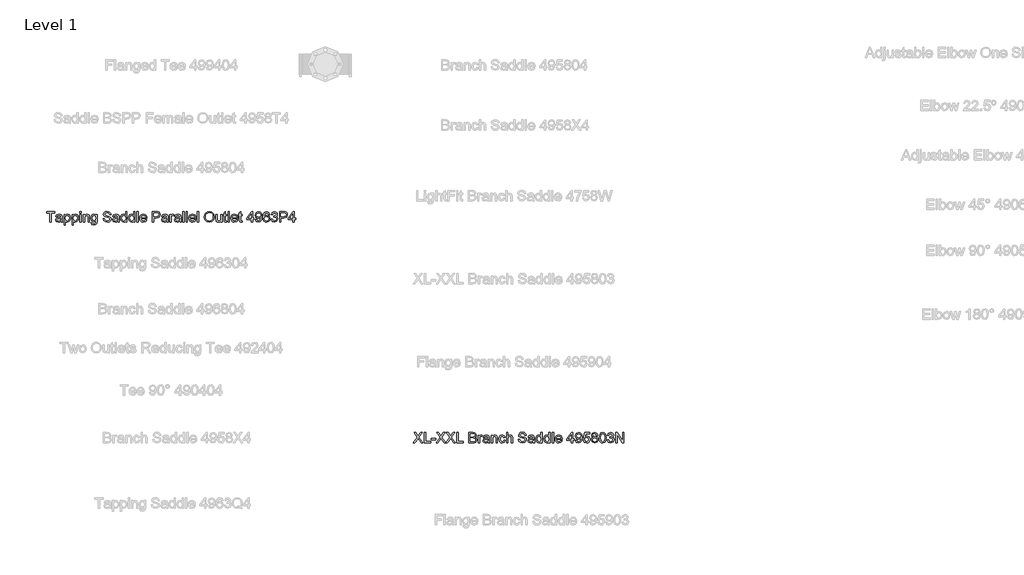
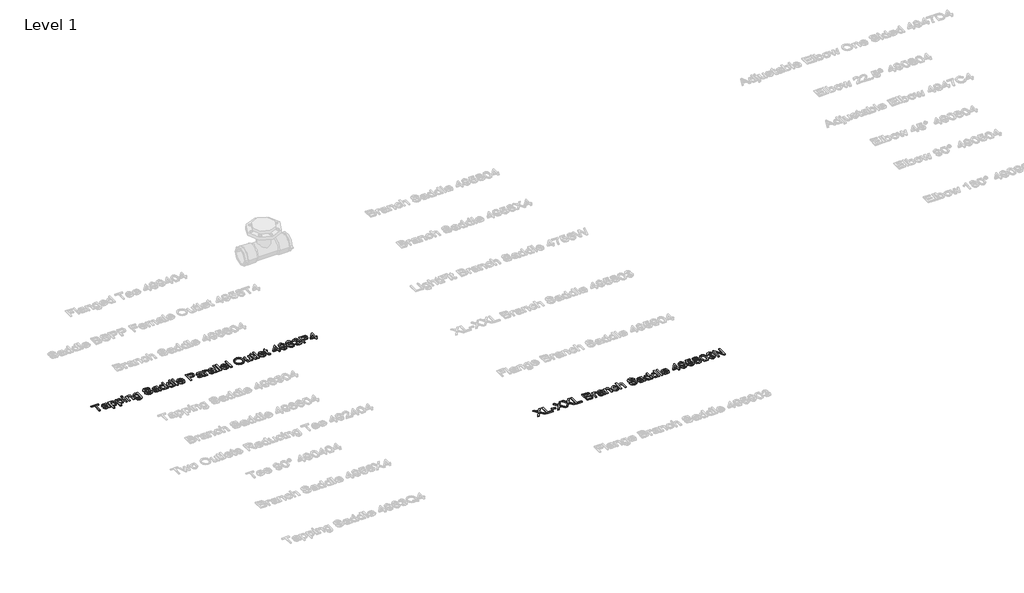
# One storey, part 9 of 38: 2 proxies.
"""IFC4 building model written with IfcOpenShell, lengths in millimetres."""

from ifc_helpers import new_model, si_unit, origin, origin_with_axes, place, context, project, spatial, polyline, outline, extrude, element, save

model = new_model("IFC4")

# Units and contexts
model_context = context("Model", 3, world=origin())
ifc_project = project(units=[si_unit("LENGTHUNIT", "METRE", prefix="MILLI")], contexts=[model_context])

# Site, building, storey
site = spatial("IfcSite", under=ifc_project)
building = spatial("IfcBuilding", under=site)
storey = spatial("IfcBuildingStorey", under=building, Name="Level 1", Elevation=0.0)

# Proxies
placement = place(None, origin())
element("IfcBuildingElementProxy", 1, Name="100 mm Arial", ObjectType="100 mm Arial", at=placement, inside=storey, context=model_context, shape_type="SweptSolid", body=[
    extrude(outline(polyline([(6373.9808456, 4077.5779735), (6373.9808456, 4129.2702812), (6354.5962303, 4129.2702812), (6354.5962303, 4136.6548966), (6400.7500764, 4136.6548966), (6400.7500764, 4129.2702812), (6381.365461, 4129.2702812), (6381.365461, 4077.5779735), (6373.9808456, 4077.5779735)])), origin_with_axes(), (0.0, 0.0, 1.0), 5.0),
    extrude(outline(polyline([(6435.8269995, 4083.1164351), (6428.6659418, 4078.1116274), (6420.7548841, 4076.6548966), (6410.0313264, 4080.1597043), (6406.288538, 4089.1164351), (6407.7019995, 4094.9577812), (6411.4159418, 4099.1981658), (6416.5866149, 4101.6212428), (6422.976038, 4102.7318197), (6435.7837303, 4105.2702812), (6435.8269995, 4106.914512), (6433.7933456, 4112.3664351), (6425.6298841, 4114.5010505), (6418.1587303, 4113.0803774), (6414.5962303, 4108.039512), (6407.2116149, 4108.9625889), (6410.4063264, 4116.1741274), (6416.8390187, 4120.4000889), (6426.5818072, 4121.8856658), (6435.5313264, 4120.5731658), (6440.5866149, 4117.2774928), (6442.851038, 4112.2654735), (6443.2116149, 4105.8039351), (6443.2116149, 4096.6164351), (6443.5866149, 4083.7871082), (6445.0577687, 4077.5779735), (6437.6731533, 4077.5779735), (6435.8269995, 4083.1164351)]), holes=[polyline([(6435.8269995, 4097.8856658), (6423.913538, 4095.6212428), (6417.5601726, 4094.4241274), (6414.6827687, 4092.477012), (6413.6731533, 4089.6356658), (6415.8726726, 4085.6404735), (6422.3269995, 4084.039512), (6429.7981533, 4085.8063389), (6434.615461, 4090.0827812), (6435.7837303, 4095.7943197), (6435.8269995, 4097.8856658)])]), origin_with_axes(), (0.0, 0.0, 1.0), 5.0),
    extrude(outline(polyline([(6453.365461, 4060.9625889), (6453.365461, 4120.9625889), (6460.7500764, 4120.9625889), (6460.7500764, 4113.7222043), (6465.8558456, 4119.8448005), (6472.7500764, 4121.8856658), (6482.1106533, 4119.0298966), (6488.226038, 4110.9818197), (6490.288538, 4099.602012), (6487.959211, 4087.6380697), (6481.194788, 4079.4890312), (6471.8558456, 4076.6548966), (6465.4303649, 4078.5515312), (6460.7500764, 4083.3472043), (6460.7500764, 4060.9625889), (6453.365461, 4060.9625889)]), holes=[polyline([(6460.7500764, 4098.9241274), (6463.944788, 4087.6741274), (6471.6971918, 4084.039512), (6479.6082495, 4087.8039351), (6482.9039226, 4099.4722043), (6479.6875764, 4110.7510505), (6472.0000764, 4114.5010505), (6464.1611341, 4110.5130697), (6460.7500764, 4098.9241274)])]), origin_with_axes(), (0.0, 0.0, 1.0), 5.0),
    extrude(outline(polyline([(6498.5962303, 4060.9625889), (6498.5962303, 4120.9625889), (6505.9808456, 4120.9625889), (6505.9808456, 4113.7222043), (6511.0866149, 4119.8448005), (6517.9808456, 4121.8856658), (6527.3414226, 4119.0298966), (6533.4568072, 4110.9818197), (6535.5193072, 4099.602012), (6533.1899803, 4087.6380697), (6526.4255572, 4079.4890312), (6517.0866149, 4076.6548966), (6510.6611341, 4078.5515312), (6505.9808456, 4083.3472043), (6505.9808456, 4060.9625889), (6498.5962303, 4060.9625889)]), holes=[polyline([(6505.9808456, 4098.9241274), (6509.1755572, 4087.6741274), (6516.927961, 4084.039512), (6524.8390187, 4087.8039351), (6528.1346918, 4099.4722043), (6524.9183456, 4110.7510505), (6517.2308456, 4114.5010505), (6509.3919033, 4110.5130697), (6505.9808456, 4098.9241274)])]), origin_with_axes(), (0.0, 0.0, 1.0), 5.0),
    extrude(outline(polyline([(6543.8269995, 4129.2702812), (6543.8269995, 4136.6548966), (6551.2116149, 4136.6548966), (6551.2116149, 4129.2702812), (6543.8269995, 4129.2702812)])), origin_with_axes(), (0.0, 0.0, 1.0), 5.0),
    extrude(outline(polyline([(6543.8269995, 4077.5779735), (6543.8269995, 4120.9625889), (6551.2116149, 4120.9625889), (6551.2116149, 4077.5779735), (6543.8269995, 4077.5779735)])), origin_with_axes(), (0.0, 0.0, 1.0), 5.0),
    extrude(outline(polyline([(6562.288538, 4077.5779735), (6562.288538, 4120.9625889), (6569.6731533, 4120.9625889), (6569.6731533, 4114.9048966), (6575.319788, 4120.1404735), (6583.0289226, 4121.8856658), (6590.0024803, 4120.4794158), (6594.7620956, 4116.7871082), (6596.976038, 4111.3568197), (6597.365461, 4104.2173966), (6597.365461, 4077.5779735), (6589.9808456, 4077.5779735), (6589.9808456, 4103.2222043), (6589.1298841, 4109.7558582), (6586.1226726, 4113.2101851), (6581.052961, 4114.5010505), (6573.0409418, 4111.602012), (6569.6731533, 4100.5972043), (6569.6731533, 4077.5779735), (6562.288538, 4077.5779735)])), origin_with_axes(), (0.0, 0.0, 1.0), 5.0),
    extrude(outline(polyline([(6605.6731533, 4073.8856658), (6613.0577687, 4072.9625889), (6615.4519995, 4069.0683582), (6622.6202687, 4067.4241274), (6630.177961, 4069.2847043), (6633.7837303, 4074.5058582), (6634.288538, 4083.1164351), (6622.7500764, 4077.5779735), (6615.1364947, 4079.1897524), (6609.459211, 4084.0250889), (6604.7500764, 4099.4866274), (6606.8630572, 4110.9313389), (6612.9784418, 4119.0298966), (6622.3894995, 4121.8856658), (6628.9772399, 4120.2702812), (6634.288538, 4115.4241274), (6634.288538, 4120.9625889), (6641.6731533, 4120.9625889), (6641.6731533, 4083.5058582), (6639.6539226, 4069.1621082), (6633.257288, 4062.4914351), (6622.476038, 4060.039512), (6610.194788, 4063.4938389), (6605.6731533, 4073.8856658)]), holes=[polyline([(6612.1346918, 4099.9914351), (6615.2861341, 4088.5611466), (6623.1971918, 4084.9625889), (6631.0938264, 4088.539512), (6634.288538, 4099.7750889), (6631.0000764, 4110.7871082), (6623.0818072, 4114.5010505), (6615.3294033, 4110.8448005), (6612.1346918, 4099.9914351)])]), origin_with_axes(), (0.0, 0.0, 1.0), 5.0),
    extrude(outline(polyline([(6673.9808456, 4097.8856658), (6681.365461, 4097.8856658), (6683.7452687, 4090.4938389), (6689.5577687, 4085.820762), (6698.413538, 4084.039512), (6706.1298841, 4085.3880697), (6711.1130572, 4089.0948005), (6712.7500764, 4094.0491274), (6711.5241149, 4098.6573005), (6706.5048841, 4102.0106658), (6695.7524803, 4104.8303774), (6684.177961, 4108.4722043), (6677.896711, 4113.9673966), (6675.8269995, 4121.3087428), (6678.3870956, 4129.6669158), (6685.865461, 4135.5659543), (6696.8125764, 4137.5779735), (6708.4952687, 4135.4722043), (6716.2837303, 4129.2847043), (6719.2116149, 4120.039512), (6711.8269995, 4120.039512), (6707.6443072, 4127.6260505), (6697.101038, 4130.1933582), (6686.5289226, 4127.6548966), (6683.2116149, 4121.5250889), (6685.5625764, 4116.4048966), (6697.6202687, 4112.2798966), (6710.6875764, 4108.5731658), (6717.834211, 4102.5875889), (6720.1346918, 4094.2366274), (6717.4880572, 4085.4024928), (6709.8726726, 4078.9553774), (6698.7019995, 4076.6548966), (6685.5120956, 4079.1356658), (6677.1683456, 4086.6068197), (6673.9808456, 4097.8856658)])), origin_with_axes(), (0.0, 0.0, 1.0), 5.0),
    extrude(outline(polyline([(6757.9808456, 4083.1164351), (6750.819788, 4078.1116274), (6742.9087303, 4076.6548966), (6732.1851726, 4080.1597043), (6728.4423841, 4089.1164351), (6729.8558456, 4094.9577812), (6733.569788, 4099.1981658), (6738.740461, 4101.6212428), (6745.1298841, 4102.7318197), (6757.9375764, 4105.2702812), (6757.9808456, 4106.914512), (6755.9471918, 4112.3664351), (6747.7837303, 4114.5010505), (6740.3125764, 4113.0803774), (6736.7500764, 4108.039512), (6729.365461, 4108.9625889), (6732.5601726, 4116.1741274), (6738.9928649, 4120.4000889), (6748.7356533, 4121.8856658), (6757.6851726, 4120.5731658), (6762.740461, 4117.2774928), (6765.0048841, 4112.2654735), (6765.365461, 4105.8039351), (6765.365461, 4096.6164351), (6765.740461, 4083.7871082), (6767.2116149, 4077.5779735), (6759.8269995, 4077.5779735), (6757.9808456, 4083.1164351)]), holes=[polyline([(6757.9808456, 4097.8856658), (6746.0673841, 4095.6212428), (6739.7140187, 4094.4241274), (6736.8366149, 4092.477012), (6735.8269995, 4089.6356658), (6738.0265187, 4085.6404735), (6744.4808456, 4084.039512), (6751.9519995, 4085.8063389), (6756.7693072, 4090.0827812), (6757.9375764, 4095.7943197), (6757.9808456, 4097.8856658)])]), origin_with_axes(), (0.0, 0.0, 1.0), 5.0),
    extrude(outline(polyline([(6802.288538, 4077.5779735), (6802.288538, 4084.5443197), (6797.4027206, 4078.6272524), (6790.6491149, 4076.6548966), (6781.5048841, 4079.5106658), (6775.0433456, 4087.4794158), (6772.7500764, 4099.227012), (6774.8630572, 4110.9818197), (6781.194788, 4119.0731658), (6790.6202687, 4121.8856658), (6797.427961, 4119.8736466), (6802.288538, 4114.6452812), (6802.288538, 4136.6548966), (6809.6731533, 4136.6548966), (6809.6731533, 4077.5779735), (6802.288538, 4077.5779735)]), holes=[polyline([(6780.1346918, 4099.2558582), (6783.4664226, 4087.8255697), (6791.3269995, 4084.039512), (6799.0938264, 4087.6524928), (6802.288538, 4098.6933582), (6799.0361341, 4110.6789351), (6791.0241149, 4114.5010505), (6783.2500764, 4110.8303774), (6780.1346918, 4099.2558582)])]), origin_with_axes(), (0.0, 0.0, 1.0), 5.0),
    extrude(outline(polyline([(6847.5193072, 4077.5779735), (6847.5193072, 4084.5443197), (6842.6334899, 4078.6272524), (6835.8798841, 4076.6548966), (6826.7356533, 4079.5106658), (6820.2741149, 4087.4794158), (6817.9808456, 4099.227012), (6820.0938264, 4110.9818197), (6826.4255572, 4119.0731658), (6835.851038, 4121.8856658), (6842.6587303, 4119.8736466), (6847.5193072, 4114.6452812), (6847.5193072, 4136.6548966), (6854.9039226, 4136.6548966), (6854.9039226, 4077.5779735), (6847.5193072, 4077.5779735)]), holes=[polyline([(6825.365461, 4099.2558582), (6828.6971918, 4087.8255697), (6836.5577687, 4084.039512), (6844.3245956, 4087.6524928), (6847.5193072, 4098.6933582), (6844.2669033, 4110.6789351), (6836.2548841, 4114.5010505), (6828.4808456, 4110.8303774), (6825.365461, 4099.2558582)])]), origin_with_axes(), (0.0, 0.0, 1.0), 5.0),
    extrude(outline(polyline([(6865.9808456, 4077.5779735), (6865.9808456, 4136.6548966), (6873.365461, 4136.6548966), (6873.365461, 4077.5779735), (6865.9808456, 4077.5779735)])), origin_with_axes(), (0.0, 0.0, 1.0), 5.0),
    extrude(outline(polyline([(6914.8173841, 4090.5010505), (6922.0577687, 4089.5779735), (6915.2861341, 4080.0443197), (6902.6731533, 4076.6548966), (6894.0084899, 4078.117036), (6887.3414226, 4082.5034543), (6883.0902206, 4089.5292957), (6881.6731533, 4098.9097043), (6883.1046437, 4108.6056178), (6887.3991149, 4115.8568197), (6893.976038, 4120.3784543), (6902.2548841, 4121.8856658), (6910.2759178, 4120.3820601), (6916.6851726, 4115.8712428), (6920.8876966, 4108.6344639), (6922.288538, 4098.9529735), (6922.2452687, 4096.9625889), (6889.0577687, 4096.9625889), (6893.3053649, 4087.3712428), (6902.8173841, 4084.039512), (6910.0577687, 4085.5827812), (6914.8173841, 4090.5010505)]), holes=[polyline([(6889.0577687, 4104.3472043), (6914.9039226, 4104.3472043), (6911.9471918, 4111.039512), (6902.226038, 4114.5010505), (6893.132288, 4111.7390312), (6889.0577687, 4104.3472043)])]), origin_with_axes(), (0.0, 0.0, 1.0), 5.0),
    extrude(outline(polyline([(6953.6731533, 4077.5779735), (6953.6731533, 4136.6548966), (6975.5673841, 4136.6548966), (6984.3943072, 4136.0923966), (6991.569788, 4133.3303774), (6996.2212303, 4127.6188389), (6997.9808456, 4119.5635505), (6993.2284418, 4106.7991274), (6986.5631774, 4102.883262), (6976.0721918, 4101.5779735), (6961.0577687, 4101.5779735), (6961.0577687, 4077.5779735), (6953.6731533, 4077.5779735)]), holes=[polyline([(6961.0577687, 4108.9625889), (6976.5048841, 4108.9625889), (6987.3798841, 4111.6741274), (6990.5962303, 4119.3039351), (6988.6995956, 4125.4193197), (6983.7164226, 4128.7654735), (6976.3318072, 4129.2702812), (6961.0577687, 4129.2702812), (6961.0577687, 4108.9625889)])]), origin_with_axes(), (0.0, 0.0, 1.0), 5.0),
    extrude(outline(polyline([(7034.9039226, 4083.1164351), (7027.7428649, 4078.1116274), (7019.8318072, 4076.6548966), (7009.1082495, 4080.1597043), (7005.365461, 4089.1164351), (7006.7789226, 4094.9577812), (7010.4928649, 4099.1981658), (7015.663538, 4101.6212428), (7022.052961, 4102.7318197), (7034.8606533, 4105.2702812), (7034.9039226, 4106.914512), (7032.8702687, 4112.3664351), (7024.7068072, 4114.5010505), (7017.2356533, 4113.0803774), (7013.6731533, 4108.039512), (7006.288538, 4108.9625889), (7009.4832495, 4116.1741274), (7015.9159418, 4120.4000889), (7025.6587303, 4121.8856658), (7034.6082495, 4120.5731658), (7039.663538, 4117.2774928), (7041.927961, 4112.2654735), (7042.288538, 4105.8039351), (7042.288538, 4096.6164351), (7042.663538, 4083.7871082), (7044.1346918, 4077.5779735), (7036.7500764, 4077.5779735), (7034.9039226, 4083.1164351)]), holes=[polyline([(7034.9039226, 4097.8856658), (7022.990461, 4095.6212428), (7016.6370956, 4094.4241274), (7013.7596918, 4092.477012), (7012.7500764, 4089.6356658), (7014.9495956, 4085.6404735), (7021.4039226, 4084.039512), (7028.8750764, 4085.8063389), (7033.6923841, 4090.0827812), (7034.8606533, 4095.7943197), (7034.9039226, 4097.8856658)])]), origin_with_axes(), (0.0, 0.0, 1.0), 5.0),
    extrude(outline(polyline([(7052.4423841, 4077.5779735), (7052.4423841, 4120.9625889), (7058.9039226, 4120.9625889), (7058.9039226, 4114.5443197), (7063.490461, 4120.4577812), (7068.1058456, 4121.8856658), (7075.5193072, 4119.6068197), (7073.052961, 4112.9866274), (7067.8606533, 4114.5010505), (7063.6851726, 4113.0443197), (7061.0241149, 4109.0058582), (7059.8269995, 4100.3808582), (7059.8269995, 4077.5779735), (7052.4423841, 4077.5779735)])), origin_with_axes(), (0.0, 0.0, 1.0), 5.0),
    extrude(outline(polyline([(7107.8269995, 4083.1164351), (7100.6659418, 4078.1116274), (7092.7548841, 4076.6548966), (7082.0313264, 4080.1597043), (7078.288538, 4089.1164351), (7079.7019995, 4094.9577812), (7083.4159418, 4099.1981658), (7088.5866149, 4101.6212428), (7094.976038, 4102.7318197), (7107.7837303, 4105.2702812), (7107.8269995, 4106.914512), (7105.7933456, 4112.3664351), (7097.6298841, 4114.5010505), (7090.1587303, 4113.0803774), (7086.5962303, 4108.039512), (7079.2116149, 4108.9625889), (7082.4063264, 4116.1741274), (7088.8390187, 4120.4000889), (7098.5818072, 4121.8856658), (7107.5313264, 4120.5731658), (7112.5866149, 4117.2774928), (7114.851038, 4112.2654735), (7115.2116149, 4105.8039351), (7115.2116149, 4096.6164351), (7115.5866149, 4083.7871082), (7117.0577687, 4077.5779735), (7109.6731533, 4077.5779735), (7107.8269995, 4083.1164351)]), holes=[polyline([(7107.8269995, 4097.8856658), (7095.913538, 4095.6212428), (7089.5601726, 4094.4241274), (7086.6827687, 4092.477012), (7085.6731533, 4089.6356658), (7087.8726726, 4085.6404735), (7094.3269995, 4084.039512), (7101.7981533, 4085.8063389), (7106.615461, 4090.0827812), (7107.7837303, 4095.7943197), (7107.8269995, 4097.8856658)])]), origin_with_axes(), (0.0, 0.0, 1.0), 5.0),
    extrude(outline(polyline([(7125.365461, 4077.5779735), (7125.365461, 4136.6548966), (7132.7500764, 4136.6548966), (7132.7500764, 4077.5779735), (7125.365461, 4077.5779735)])), origin_with_axes(), (0.0, 0.0, 1.0), 5.0),
    extrude(outline(polyline([(7143.8269995, 4077.5779735), (7143.8269995, 4136.6548966), (7151.2116149, 4136.6548966), (7151.2116149, 4077.5779735), (7143.8269995, 4077.5779735)])), origin_with_axes(), (0.0, 0.0, 1.0), 5.0),
    extrude(outline(polyline([(7192.663538, 4090.5010505), (7199.9039226, 4089.5779735), (7193.132288, 4080.0443197), (7180.5193072, 4076.6548966), (7171.8546437, 4078.117036), (7165.1875764, 4082.5034543), (7160.9363745, 4089.5292957), (7159.5193072, 4098.9097043), (7160.9507976, 4108.6056178), (7165.2452687, 4115.8568197), (7171.8221918, 4120.3784543), (7180.101038, 4121.8856658), (7188.1220716, 4120.3820601), (7194.5313264, 4115.8712428), (7198.7338505, 4108.6344639), (7200.1346918, 4098.9529735), (7200.0914226, 4096.9625889), (7166.9039226, 4096.9625889), (7171.1515187, 4087.3712428), (7180.663538, 4084.039512), (7187.9039226, 4085.5827812), (7192.663538, 4090.5010505)]), holes=[polyline([(7166.9039226, 4104.3472043), (7192.7500764, 4104.3472043), (7189.7933456, 4111.039512), (7180.0721918, 4114.5010505), (7170.9784418, 4111.7390312), (7166.9039226, 4104.3472043)])]), origin_with_axes(), (0.0, 0.0, 1.0), 5.0),
    extrude(outline(polyline([(7207.5193072, 4077.5779735), (7207.5193072, 4136.6548966), (7214.9039226, 4136.6548966), (7214.9039226, 4077.5779735), (7207.5193072, 4077.5779735)])), origin_with_axes(), (0.0, 0.0, 1.0), 5.0),
    extrude(outline(polyline([(7247.2116149, 4106.3375889), (7249.1803649, 4119.4012908), (7255.0866149, 4129.2847043), (7264.1046437, 4135.5046562), (7275.4087303, 4137.5779735), (7290.1058456, 4133.6837428), (7300.0866149, 4122.8231658), (7303.5193072, 4107.0154735), (7299.9063264, 4090.9914351), (7289.6659418, 4080.289512), (7275.365461, 4076.6548966), (7260.5096918, 4080.6717235), (7250.5866149, 4091.633262), (7247.2116149, 4106.3375889)]), holes=[polyline([(7254.5962303, 4106.2654735), (7256.0727928, 4097.023887), (7260.5024803, 4089.9818197), (7267.1605331, 4085.5250889), (7275.3221918, 4084.039512), (7283.6028408, 4085.539512), (7290.271711, 4090.039512), (7294.6689466, 4097.2979255), (7296.1346918, 4107.0731658), (7293.6250764, 4119.2606658), (7286.2909418, 4127.3303774), (7275.4519995, 4130.1933582), (7260.7548841, 4124.6765312), (7256.1358937, 4117.3153533), (7254.5962303, 4106.2654735)])]), origin_with_axes(), (0.0, 0.0, 1.0), 5.0),
    extrude(outline(polyline([(7340.4423841, 4077.5779735), (7340.4423841, 4085.0347043), (7334.6587303, 4078.7498485), (7327.115461, 4076.6548966), (7320.1707495, 4078.1260505), (7315.382288, 4081.8183582), (7313.1827687, 4087.2558582), (7312.7500764, 4094.1212428), (7312.7500764, 4120.9625889), (7320.1346918, 4120.9625889), (7320.1346918, 4097.5972043), (7320.5818072, 4090.0683582), (7323.5024803, 4085.6476851), (7329.0048841, 4084.039512), (7335.1707495, 4085.6837428), (7339.2452687, 4090.1621082), (7340.4423841, 4098.3904735), (7340.4423841, 4120.9625889), (7347.8269995, 4120.9625889), (7347.8269995, 4077.5779735), (7340.4423841, 4077.5779735)])), origin_with_axes(), (0.0, 0.0, 1.0), 5.0),
    extrude(outline(polyline([(7373.6731533, 4083.7366274), (7374.5962303, 4077.3616274), (7369.0721918, 4076.6548966), (7362.8846918, 4077.8808582), (7359.7981533, 4081.0972043), (7358.9039226, 4089.477012), (7358.9039226, 4113.5779735), (7353.365461, 4113.5779735), (7353.365461, 4120.9625889), (7358.9039226, 4120.9625889), (7358.9039226, 4131.5058582), (7366.288538, 4135.8472043), (7366.288538, 4120.9625889), (7373.6731533, 4120.9625889), (7373.6731533, 4113.5779735), (7366.288538, 4113.5779735), (7366.288538, 4089.6933582), (7366.677961, 4085.8856658), (7367.9399803, 4084.5371082), (7370.4568072, 4084.039512), (7373.6731533, 4083.7366274)])), origin_with_axes(), (0.0, 0.0, 1.0), 5.0),
    extrude(outline(polyline([(7381.0577687, 4077.5779735), (7381.0577687, 4136.6548966), (7388.4423841, 4136.6548966), (7388.4423841, 4077.5779735), (7381.0577687, 4077.5779735)])), origin_with_axes(), (0.0, 0.0, 1.0), 5.0),
    extrude(outline(polyline([(7429.8943072, 4090.5010505), (7437.1346918, 4089.5779735), (7430.3630572, 4080.0443197), (7417.7500764, 4076.6548966), (7409.085413, 4078.117036), (7402.4183456, 4082.5034543), (7398.1671437, 4089.5292957), (7396.7500764, 4098.9097043), (7398.1815668, 4108.6056178), (7402.476038, 4115.8568197), (7409.052961, 4120.3784543), (7417.3318072, 4121.8856658), (7425.3528408, 4120.3820601), (7431.7620956, 4115.8712428), (7435.9646197, 4108.6344639), (7437.365461, 4098.9529735), (7437.3221918, 4096.9625889), (7404.1346918, 4096.9625889), (7408.382288, 4087.3712428), (7417.8943072, 4084.039512), (7425.1346918, 4085.5827812), (7429.8943072, 4090.5010505)]), holes=[polyline([(7404.1346918, 4104.3472043), (7429.9808456, 4104.3472043), (7427.0241149, 4111.039512), (7417.302961, 4114.5010505), (7408.209211, 4111.7390312), (7404.1346918, 4104.3472043)])]), origin_with_axes(), (0.0, 0.0, 1.0), 5.0),
    extrude(outline(polyline([(7460.4423841, 4083.7366274), (7461.365461, 4077.3616274), (7455.8414226, 4076.6548966), (7449.6539226, 4077.8808582), (7446.5673841, 4081.0972043), (7445.6731533, 4089.477012), (7445.6731533, 4113.5779735), (7440.1346918, 4113.5779735), (7440.1346918, 4120.9625889), (7445.6731533, 4120.9625889), (7445.6731533, 4131.5058582), (7453.0577687, 4135.8472043), (7453.0577687, 4120.9625889), (7460.4423841, 4120.9625889), (7460.4423841, 4113.5779735), (7453.0577687, 4113.5779735), (7453.0577687, 4089.6933582), (7453.4471918, 4085.8856658), (7454.709211, 4084.5371082), (7457.226038, 4084.039512), (7460.4423841, 4083.7366274)])), origin_with_axes(), (0.0, 0.0, 1.0), 5.0),
    extrude(outline(polyline([(7513.0577687, 4077.5779735), (7513.0577687, 4091.4241274), (7486.288538, 4091.4241274), (7486.288538, 4098.8087428), (7514.9039226, 4135.7318197), (7520.4423841, 4135.7318197), (7520.4423841, 4098.8087428), (7527.8269995, 4098.8087428), (7527.8269995, 4091.4241274), (7520.4423841, 4091.4241274), (7520.4423841, 4077.5779735), (7513.0577687, 4077.5779735)]), holes=[polyline([(7513.0577687, 4098.8087428), (7513.0577687, 4121.6260505), (7495.3750764, 4098.8087428), (7513.0577687, 4098.8087428)])]), origin_with_axes(), (0.0, 0.0, 1.0), 5.0),
    extrude(outline(polyline([(7535.2116149, 4092.3472043), (7542.5962303, 4093.2702812), (7545.913538, 4086.2246082), (7552.2019995, 4084.039512), (7558.1803649, 4085.445762), (7562.2332495, 4089.2029735), (7564.6491149, 4095.6212428), (7565.7164226, 4104.1885505), (7559.7669033, 4100.0347043), (7551.6683456, 4097.8856658), (7539.3294033, 4103.1356658), (7534.288538, 4116.9673966), (7539.5745956, 4131.2462428), (7552.8221918, 4136.6548966), (7563.3438264, 4133.5683582), (7570.584211, 4124.7702812), (7573.0577687, 4108.2414351), (7570.5914226, 4090.3063389), (7563.257288, 4080.1452812), (7551.8558456, 4076.6548966), (7540.5048841, 4080.7726851), (7535.2116149, 4092.3472043)]), holes=[polyline([(7565.6731533, 4117.1404735), (7562.4856533, 4125.9962428), (7554.0193072, 4129.2702812), (7545.1346918, 4125.7438389), (7541.6731533, 4116.6068197), (7544.9471918, 4108.4217235), (7553.8173841, 4105.2702812), (7562.334211, 4108.4217235), (7565.6731533, 4117.1404735)])]), origin_with_axes(), (0.0, 0.0, 1.0), 5.0),
    extrude(outline(polyline([(7617.365461, 4120.9625889), (7609.9808456, 4120.039512), (7607.1827687, 4126.1981658), (7599.7837303, 4129.2702812), (7593.1202687, 4127.4818197), (7588.0794033, 4120.7678774), (7585.9808456, 4107.6068197), (7592.4928649, 4113.4986466), (7600.5625764, 4115.4241274), (7613.1106533, 4110.1597043), (7618.288538, 4096.5587428), (7615.851038, 4086.3688389), (7609.1443072, 4079.1573005), (7599.4664226, 4076.6548966), (7591.0884178, 4078.3135505), (7584.4159418, 4083.289512), (7580.0511581, 4092.0731658), (7578.5962303, 4105.1548966), (7580.2116149, 4119.8628293), (7585.0577687, 4129.9193197), (7591.6743553, 4134.9710024), (7600.2452687, 4136.6548966), (7611.913538, 4132.4866274), (7617.365461, 4120.9625889)]), holes=[polyline([(7585.9808456, 4096.6741274), (7587.6899803, 4090.2774928), (7592.2332495, 4085.633262), (7598.8894995, 4084.039512), (7607.5938264, 4087.3423966), (7610.9039226, 4096.3135505), (7607.6370956, 4104.9024928), (7598.5866149, 4108.039512), (7589.6515187, 4104.9024928), (7585.9808456, 4096.6741274)])]), origin_with_axes(), (0.0, 0.0, 1.0), 5.0),
    extrude(outline(polyline([(7624.7500764, 4093.2702812), (7632.1346918, 4094.1933582), (7636.209211, 4086.4193197), (7643.8318072, 4084.039512), (7652.802961, 4087.3135505), (7656.1346918, 4095.4193197), (7652.8318072, 4103.0563389), (7644.4375764, 4106.0779735), (7639.2596918, 4105.2702812), (7640.0818072, 4112.6548966), (7649.6443072, 4114.6885505), (7653.365461, 4121.2077812), (7650.6683456, 4126.9842235), (7643.7164226, 4129.2702812), (7636.677961, 4126.9625889), (7633.0577687, 4120.039512), (7625.6731533, 4120.9625889), (7631.7164226, 4132.5443197), (7643.4568072, 4136.6548966), (7652.3630572, 4134.6284543), (7658.5938264, 4129.0899928), (7660.7500764, 4121.6404735), (7658.7019995, 4114.8327812), (7652.6443072, 4109.9433582), (7660.6923841, 4104.8952812), (7663.5193072, 4095.289512), (7657.865461, 4082.0779735), (7643.5721918, 4076.6548966), (7630.6202687, 4081.2847043), (7624.7500764, 4093.2702812)])), origin_with_axes(), (0.0, 0.0, 1.0), 5.0),
    extrude(outline(polyline([(7672.7500764, 4077.5779735), (7672.7500764, 4136.6548966), (7694.6443072, 4136.6548966), (7703.4712303, 4136.0923966), (7710.646711, 4133.3303774), (7715.2981533, 4127.6188389), (7717.0577687, 4119.5635505), (7712.3053649, 4106.7991274), (7705.6401005, 4102.883262), (7695.1491149, 4101.5779735), (7680.1346918, 4101.5779735), (7680.1346918, 4077.5779735), (7672.7500764, 4077.5779735)]), holes=[polyline([(7680.1346918, 4108.9625889), (7695.5818072, 4108.9625889), (7706.4568072, 4111.6741274), (7709.6731533, 4119.3039351), (7707.7765187, 4125.4193197), (7702.7933456, 4128.7654735), (7695.4087303, 4129.2702812), (7680.1346918, 4129.2702812), (7680.1346918, 4108.9625889)])]), origin_with_axes(), (0.0, 0.0, 1.0), 5.0),
    extrude(outline(polyline([(7748.4423841, 4077.5779735), (7748.4423841, 4091.4241274), (7721.6731533, 4091.4241274), (7721.6731533, 4098.8087428), (7750.288538, 4135.7318197), (7755.8269995, 4135.7318197), (7755.8269995, 4098.8087428), (7763.2116149, 4098.8087428), (7763.2116149, 4091.4241274), (7755.8269995, 4091.4241274), (7755.8269995, 4077.5779735), (7748.4423841, 4077.5779735)]), holes=[polyline([(7748.4423841, 4098.8087428), (7748.4423841, 4121.6260505), (7730.7596918, 4098.8087428), (7748.4423841, 4098.8087428)])]), origin_with_axes(), (0.0, 0.0, 1.0), 5.0),
])
element("IfcBuildingElementProxy", 2, Name="100 mm Arial", ObjectType="100 mm Arial", at=placement, inside=storey, context=model_context, shape_type="SweptSolid", body=[
    extrude(outline(polyline([(8429.5193072, 2827.5779735), (8452.2933456, 2859.7702812), (8433.2116149, 2886.6548966), (8442.0673841, 2886.6548966), (8452.8125764, 2871.5250889), (8456.4327687, 2865.6260505), (8460.6731533, 2871.6260505), (8471.302961, 2886.6548966), (8480.288538, 2886.6548966), (8461.2068072, 2859.6837428), (8483.9808456, 2827.5779735), (8475.1250764, 2827.5779735), (8459.9519995, 2848.9818197), (8456.7933456, 2853.4241274), (8453.3173841, 2848.5491274), (8438.5048841, 2827.5779735), (8429.5193072, 2827.5779735)])), origin_with_axes(), (0.0, 0.0, 1.0), 5.0),
    extrude(outline(polyline([(8491.365461, 2827.5779735), (8491.365461, 2886.6548966), (8498.7500764, 2886.6548966), (8498.7500764, 2834.9625889), (8528.288538, 2834.9625889), (8528.288538, 2827.5779735), (8491.365461, 2827.5779735)])), origin_with_axes(), (0.0, 0.0, 1.0), 5.0),
    extrude(outline(polyline([(8531.9808456, 2845.1164351), (8531.9808456, 2852.5010505), (8555.0577687, 2852.5010505), (8555.0577687, 2845.1164351), (8531.9808456, 2845.1164351)])), origin_with_axes(), (0.0, 0.0, 1.0), 5.0),
    extrude(outline(polyline([(8557.8269995, 2827.5779735), (8580.601038, 2859.7702812), (8561.5193072, 2886.6548966), (8570.3750764, 2886.6548966), (8581.1202687, 2871.5250889), (8584.740461, 2865.6260505), (8588.9808456, 2871.6260505), (8599.6106533, 2886.6548966), (8608.5962303, 2886.6548966), (8589.5144995, 2859.6837428), (8612.288538, 2827.5779735), (8603.4327687, 2827.5779735), (8588.2596918, 2848.9818197), (8585.101038, 2853.4241274), (8581.6250764, 2848.5491274), (8566.8125764, 2827.5779735), (8557.8269995, 2827.5779735)])), origin_with_axes(), (0.0, 0.0, 1.0), 5.0),
    extrude(outline(polyline([(8613.2116149, 2827.5779735), (8635.9856533, 2859.7702812), (8616.9039226, 2886.6548966), (8625.7596918, 2886.6548966), (8636.5048841, 2871.5250889), (8640.1250764, 2865.6260505), (8644.365461, 2871.6260505), (8654.9952687, 2886.6548966), (8663.9808456, 2886.6548966), (8644.8991149, 2859.6837428), (8667.6731533, 2827.5779735), (8658.8173841, 2827.5779735), (8643.6443072, 2848.9818197), (8640.4856533, 2853.4241274), (8637.0096918, 2848.5491274), (8622.1971918, 2827.5779735), (8613.2116149, 2827.5779735)])), origin_with_axes(), (0.0, 0.0, 1.0), 5.0),
    extrude(outline(polyline([(8675.0577687, 2827.5779735), (8675.0577687, 2886.6548966), (8682.4423841, 2886.6548966), (8682.4423841, 2834.9625889), (8711.9808456, 2834.9625889), (8711.9808456, 2827.5779735), (8675.0577687, 2827.5779735)])), origin_with_axes(), (0.0, 0.0, 1.0), 5.0),
    extrude(outline(polyline([(8743.365461, 2827.5779735), (8743.365461, 2886.6548966), (8765.9087303, 2886.6548966), (8776.9495956, 2884.9169158), (8783.4688264, 2879.5731658), (8785.8269995, 2872.0154735), (8783.8438264, 2865.1140312), (8777.851038, 2859.8856658), (8785.1274803, 2854.3760505), (8787.6731533, 2845.1885505), (8785.9351726, 2837.2486466), (8781.6298841, 2831.5948005), (8775.2044033, 2828.5948005), (8765.7356533, 2827.5779735), (8743.365461, 2827.5779735)]), holes=[polyline([(8750.7500764, 2862.6548966), (8764.2356533, 2862.6548966), (8772.1106533, 2863.289512), (8776.8486341, 2866.0226851), (8778.4423841, 2870.8327812), (8776.9568072, 2875.6500889), (8772.7019995, 2878.4986466), (8763.2116149, 2879.2702812), (8750.7500764, 2879.2702812), (8750.7500764, 2862.6548966)]), polyline([(8750.7500764, 2834.9625889), (8765.8943072, 2834.9625889), (8771.3750764, 2835.2510505), (8776.0120956, 2836.8592235), (8779.084211, 2840.1404735), (8780.288538, 2845.1164351), (8778.8750764, 2850.8568197), (8774.2957495, 2854.2823005), (8765.1731533, 2855.2702812), (8750.7500764, 2855.2702812), (8750.7500764, 2834.9625889)])]), origin_with_axes(), (0.0, 0.0, 1.0), 5.0),
    extrude(outline(polyline([(8796.9039226, 2827.5779735), (8796.9039226, 2870.9625889), (8803.365461, 2870.9625889), (8803.365461, 2864.5443197), (8807.9519995, 2870.4577812), (8812.5673841, 2871.8856658), (8819.9808456, 2869.6068197), (8817.5144995, 2862.9866274), (8812.3221918, 2864.5010505), (8808.146711, 2863.0443197), (8805.4856533, 2859.0058582), (8804.288538, 2850.3808582), (8804.288538, 2827.5779735), (8796.9039226, 2827.5779735)])), origin_with_axes(), (0.0, 0.0, 1.0), 5.0),
    extrude(outline(polyline([(8852.288538, 2833.1164351), (8845.1274803, 2828.1116274), (8837.2164226, 2826.6548966), (8826.4928649, 2830.1597043), (8822.7500764, 2839.1164351), (8824.163538, 2844.9577812), (8827.8774803, 2849.1981658), (8833.0481533, 2851.6212428), (8839.4375764, 2852.7318197), (8852.2452687, 2855.2702812), (8852.288538, 2856.914512), (8850.2548841, 2862.3664351), (8842.0914226, 2864.5010505), (8834.6202687, 2863.0803774), (8831.0577687, 2858.039512), (8823.6731533, 2858.9625889), (8826.8678649, 2866.1741274), (8833.3005572, 2870.4000889), (8843.0433456, 2871.8856658), (8851.9928649, 2870.5731658), (8857.0481533, 2867.2774928), (8859.3125764, 2862.2654735), (8859.6731533, 2855.8039351), (8859.6731533, 2846.6164351), (8860.0481533, 2833.7871082), (8861.5193072, 2827.5779735), (8854.1346918, 2827.5779735), (8852.288538, 2833.1164351)]), holes=[polyline([(8852.288538, 2847.8856658), (8840.3750764, 2845.6212428), (8834.021711, 2844.4241274), (8831.1443072, 2842.477012), (8830.1346918, 2839.6356658), (8832.334211, 2835.6404735), (8838.788538, 2834.039512), (8846.2596918, 2835.8063389), (8851.0769995, 2840.0827812), (8852.2452687, 2845.7943197), (8852.288538, 2847.8856658)])]), origin_with_axes(), (0.0, 0.0, 1.0), 5.0),
    extrude(outline(polyline([(8869.8269995, 2827.5779735), (8869.8269995, 2870.9625889), (8877.2116149, 2870.9625889), (8877.2116149, 2864.9048966), (8882.8582495, 2870.1404735), (8890.5673841, 2871.8856658), (8897.5409418, 2870.4794158), (8902.3005572, 2866.7871082), (8904.5144995, 2861.3568197), (8904.9039226, 2854.2173966), (8904.9039226, 2827.5779735), (8897.5193072, 2827.5779735), (8897.5193072, 2853.2222043), (8896.6683456, 2859.7558582), (8893.6611341, 2863.2101851), (8888.5914226, 2864.5010505), (8880.5794033, 2861.602012), (8877.2116149, 2850.5972043), (8877.2116149, 2827.5779735), (8869.8269995, 2827.5779735)])), origin_with_axes(), (0.0, 0.0, 1.0), 5.0),
    extrude(outline(polyline([(8942.7500764, 2843.2702812), (8950.1346918, 2842.3472043), (8944.2068072, 2830.8159543), (8932.4952687, 2826.6548966), (8924.6401005, 2828.1062187), (8918.4976726, 2832.4601851), (8914.5331293, 2839.5256899), (8913.2116149, 2849.1116274), (8915.4688264, 2861.3784543), (8922.3486341, 2869.2606658), (8932.3943072, 2871.8856658), (8943.6226726, 2868.2798966), (8949.2116149, 2858.039512), (8941.8269995, 2857.1164351), (8938.4015187, 2862.6476851), (8932.4519995, 2864.5010505), (8923.8919033, 2860.852012), (8920.5962303, 2849.3135505), (8923.819788, 2837.6669158), (8932.2500764, 2834.039512), (8939.209211, 2836.3039351), (8942.7500764, 2843.2702812)])), origin_with_axes(), (0.0, 0.0, 1.0), 5.0),
    extrude(outline(polyline([(8956.5962303, 2827.5779735), (8956.5962303, 2886.6548966), (8963.9808456, 2886.6548966), (8963.9808456, 2864.9337428), (8969.7392591, 2870.1476851), (8976.8318072, 2871.8856658), (8985.1250764, 2869.9890312), (8990.1587303, 2864.7462428), (8991.6731533, 2855.039512), (8991.6731533, 2827.5779735), (8984.288538, 2827.5779735), (8984.288538, 2854.2750889), (8981.9375764, 2862.0635505), (8975.2741149, 2864.5010505), (8969.2236341, 2862.8568197), (8965.1851726, 2858.4000889), (8963.9808456, 2850.6260505), (8963.9808456, 2827.5779735), (8956.5962303, 2827.5779735)])), origin_with_axes(), (0.0, 0.0, 1.0), 5.0),
    extrude(outline(polyline([(9023.0577687, 2847.8856658), (9030.4423841, 2847.8856658), (9032.8221918, 2840.4938389), (9038.6346918, 2835.820762), (9047.490461, 2834.039512), (9055.2068072, 2835.3880697), (9060.1899803, 2839.0948005), (9061.8269995, 2844.0491274), (9060.601038, 2848.6573005), (9055.5818072, 2852.0106658), (9044.8294033, 2854.8303774), (9033.2548841, 2858.4722043), (9026.9736341, 2863.9673966), (9024.9039226, 2871.3087428), (9027.4640187, 2879.6669158), (9034.9423841, 2885.5659543), (9045.8894995, 2887.5779735), (9057.5721918, 2885.4722043), (9065.3606533, 2879.2847043), (9068.288538, 2870.039512), (9060.9039226, 2870.039512), (9056.7212303, 2877.6260505), (9046.177961, 2880.1933582), (9035.6058456, 2877.6548966), (9032.288538, 2871.5250889), (9034.6394995, 2866.4048966), (9046.6971918, 2862.2798966), (9059.7644995, 2858.5731658), (9066.9111341, 2852.5875889), (9069.2116149, 2844.2366274), (9066.5649803, 2835.4024928), (9058.9495956, 2828.9553774), (9047.7789226, 2826.6548966), (9034.5890187, 2829.1356658), (9026.2452687, 2836.6068197), (9023.0577687, 2847.8856658)])), origin_with_axes(), (0.0, 0.0, 1.0), 5.0),
    extrude(outline(polyline([(9107.0577687, 2833.1164351), (9099.896711, 2828.1116274), (9091.9856533, 2826.6548966), (9081.2620956, 2830.1597043), (9077.5193072, 2839.1164351), (9078.9327687, 2844.9577812), (9082.646711, 2849.1981658), (9087.8173841, 2851.6212428), (9094.2068072, 2852.7318197), (9107.0144995, 2855.2702812), (9107.0577687, 2856.914512), (9105.0241149, 2862.3664351), (9096.8606533, 2864.5010505), (9089.3894995, 2863.0803774), (9085.8269995, 2858.039512), (9078.4423841, 2858.9625889), (9081.6370956, 2866.1741274), (9088.069788, 2870.4000889), (9097.8125764, 2871.8856658), (9106.7620956, 2870.5731658), (9111.8173841, 2867.2774928), (9114.0818072, 2862.2654735), (9114.4423841, 2855.8039351), (9114.4423841, 2846.6164351), (9114.8173841, 2833.7871082), (9116.288538, 2827.5779735), (9108.9039226, 2827.5779735), (9107.0577687, 2833.1164351)]), holes=[polyline([(9107.0577687, 2847.8856658), (9095.1443072, 2845.6212428), (9088.7909418, 2844.4241274), (9085.913538, 2842.477012), (9084.9039226, 2839.6356658), (9087.1034418, 2835.6404735), (9093.5577687, 2834.039512), (9101.0289226, 2835.8063389), (9105.8462303, 2840.0827812), (9107.0144995, 2845.7943197), (9107.0577687, 2847.8856658)])]), origin_with_axes(), (0.0, 0.0, 1.0), 5.0),
    extrude(outline(polyline([(9151.365461, 2827.5779735), (9151.365461, 2834.5443197), (9146.4796437, 2828.6272524), (9139.726038, 2826.6548966), (9130.5818072, 2829.5106658), (9124.1202687, 2837.4794158), (9121.8269995, 2849.227012), (9123.9399803, 2860.9818197), (9130.271711, 2869.0731658), (9139.6971918, 2871.8856658), (9146.5048841, 2869.8736466), (9151.365461, 2864.6452812), (9151.365461, 2886.6548966), (9158.7500764, 2886.6548966), (9158.7500764, 2827.5779735), (9151.365461, 2827.5779735)]), holes=[polyline([(9129.2116149, 2849.2558582), (9132.5433456, 2837.8255697), (9140.4039226, 2834.039512), (9148.1707495, 2837.6524928), (9151.365461, 2848.6933582), (9148.1130572, 2860.6789351), (9140.101038, 2864.5010505), (9132.3269995, 2860.8303774), (9129.2116149, 2849.2558582)])]), origin_with_axes(), (0.0, 0.0, 1.0), 5.0),
    extrude(outline(polyline([(9196.5962303, 2827.5779735), (9196.5962303, 2834.5443197), (9191.710413, 2828.6272524), (9184.9568072, 2826.6548966), (9175.8125764, 2829.5106658), (9169.351038, 2837.4794158), (9167.0577687, 2849.227012), (9169.1707495, 2860.9818197), (9175.5024803, 2869.0731658), (9184.927961, 2871.8856658), (9191.7356533, 2869.8736466), (9196.5962303, 2864.6452812), (9196.5962303, 2886.6548966), (9203.9808456, 2886.6548966), (9203.9808456, 2827.5779735), (9196.5962303, 2827.5779735)]), holes=[polyline([(9174.4423841, 2849.2558582), (9177.7741149, 2837.8255697), (9185.6346918, 2834.039512), (9193.4015187, 2837.6524928), (9196.5962303, 2848.6933582), (9193.3438264, 2860.6789351), (9185.3318072, 2864.5010505), (9177.5577687, 2860.8303774), (9174.4423841, 2849.2558582)])]), origin_with_axes(), (0.0, 0.0, 1.0), 5.0),
    extrude(outline(polyline([(9215.0577687, 2827.5779735), (9215.0577687, 2886.6548966), (9222.4423841, 2886.6548966), (9222.4423841, 2827.5779735), (9215.0577687, 2827.5779735)])), origin_with_axes(), (0.0, 0.0, 1.0), 5.0),
    extrude(outline(polyline([(9263.8943072, 2840.5010505), (9271.1346918, 2839.5779735), (9264.3630572, 2830.0443197), (9251.7500764, 2826.6548966), (9243.085413, 2828.117036), (9236.4183456, 2832.5034543), (9232.1671437, 2839.5292957), (9230.7500764, 2848.9097043), (9232.1815668, 2858.6056178), (9236.476038, 2865.8568197), (9243.052961, 2870.3784543), (9251.3318072, 2871.8856658), (9259.3528408, 2870.3820601), (9265.7620956, 2865.8712428), (9269.9646197, 2858.6344639), (9271.365461, 2848.9529735), (9271.3221918, 2846.9625889), (9238.1346918, 2846.9625889), (9242.382288, 2837.3712428), (9251.8943072, 2834.039512), (9259.1346918, 2835.5827812), (9263.8943072, 2840.5010505)]), holes=[polyline([(9238.1346918, 2854.3472043), (9263.9808456, 2854.3472043), (9261.0241149, 2861.039512), (9251.302961, 2864.5010505), (9242.209211, 2861.7390312), (9238.1346918, 2854.3472043)])]), origin_with_axes(), (0.0, 0.0, 1.0), 5.0),
    extrude(outline(polyline([(9323.9808456, 2827.5779735), (9323.9808456, 2841.4241274), (9297.2116149, 2841.4241274), (9297.2116149, 2848.8087428), (9325.8269995, 2885.7318197), (9331.365461, 2885.7318197), (9331.365461, 2848.8087428), (9338.7500764, 2848.8087428), (9338.7500764, 2841.4241274), (9331.365461, 2841.4241274), (9331.365461, 2827.5779735), (9323.9808456, 2827.5779735)]), holes=[polyline([(9323.9808456, 2848.8087428), (9323.9808456, 2871.6260505), (9306.2981533, 2848.8087428), (9323.9808456, 2848.8087428)])]), origin_with_axes(), (0.0, 0.0, 1.0), 5.0),
    extrude(outline(polyline([(9346.1346918, 2842.3472043), (9353.5193072, 2843.2702812), (9356.8366149, 2836.2246082), (9363.1250764, 2834.039512), (9369.1034418, 2835.445762), (9373.1563264, 2839.2029735), (9375.5721918, 2845.6212428), (9376.6394995, 2854.1885505), (9370.6899803, 2850.0347043), (9362.5914226, 2847.8856658), (9350.2524803, 2853.1356658), (9345.2116149, 2866.9673966), (9350.4976726, 2881.2462428), (9363.7452687, 2886.6548966), (9374.2669033, 2883.5683582), (9381.507288, 2874.7702812), (9383.9808456, 2858.2414351), (9381.5144995, 2840.3063389), (9374.1803649, 2830.1452812), (9362.7789226, 2826.6548966), (9351.427961, 2830.7726851), (9346.1346918, 2842.3472043)]), holes=[polyline([(9376.5962303, 2867.1404735), (9373.4087303, 2875.9962428), (9364.9423841, 2879.2702812), (9356.0577687, 2875.7438389), (9352.5962303, 2866.6068197), (9355.8702687, 2858.4217235), (9364.740461, 2855.2702812), (9373.257288, 2858.4217235), (9376.5962303, 2867.1404735)])]), origin_with_axes(), (0.0, 0.0, 1.0), 5.0),
    extrude(outline(polyline([(9390.4423841, 2843.2702812), (9397.8269995, 2844.1933582), (9401.5481533, 2836.5851851), (9409.2644995, 2834.039512), (9418.5241149, 2837.5803774), (9421.8269995, 2846.977012), (9418.7332495, 2855.7462428), (9409.3798841, 2858.9625889), (9402.896711, 2857.6789351), (9398.7500764, 2854.3472043), (9391.365461, 2855.2702812), (9397.8269995, 2885.7318197), (9426.4423841, 2885.7318197), (9426.4423841, 2878.3472043), (9403.7981533, 2878.3472043), (9400.6394995, 2862.0779735), (9411.4423841, 2866.3472043), (9424.069788, 2861.0539351), (9429.2116149, 2847.4385505), (9424.5818072, 2833.7366274), (9417.9327687, 2828.4253293), (9409.2356533, 2826.6548966), (9396.2044033, 2831.2053774), (9390.4423841, 2843.2702812)])), origin_with_axes(), (0.0, 0.0, 1.0), 5.0),
    extrude(outline(polyline([(9446.4327687, 2860.1164351), (9439.7044033, 2864.7029735), (9437.5193072, 2871.8423966), (9442.2789226, 2882.3856658), (9454.9568072, 2886.6548966), (9467.7500764, 2882.2847043), (9472.5962303, 2871.6404735), (9470.4399803, 2864.6813389), (9463.8991149, 2860.1164351), (9471.7524803, 2854.3255697), (9474.4423841, 2844.7702812), (9469.1058456, 2831.8760505), (9455.0577687, 2826.6548966), (9441.0096918, 2831.8976851), (9435.6731533, 2844.9722043), (9438.4712303, 2854.7510505), (9446.4327687, 2860.1164351)]), holes=[polyline([(9444.9039226, 2871.6260505), (9447.521711, 2865.8279735), (9455.1443072, 2863.5779735), (9462.615461, 2865.8135505), (9465.2116149, 2871.2943197), (9462.5289226, 2876.9698005), (9455.0577687, 2879.2702812), (9447.5649803, 2877.0202812), (9444.9039226, 2871.6260505)]), polyline([(9443.0577687, 2845.2318197), (9444.2909418, 2839.6717235), (9448.6539226, 2835.5106658), (9455.115461, 2834.039512), (9463.913538, 2837.133262), (9467.0577687, 2845.0010505), (9463.8125764, 2853.0202812), (9454.8702687, 2856.1933582), (9446.1803649, 2853.0635505), (9443.0577687, 2845.2318197)])]), origin_with_axes(), (0.0, 0.0, 1.0), 5.0),
    extrude(outline(polyline([(9480.9039226, 2856.6404735), (9483.0745956, 2873.6380697), (9489.521711, 2883.4385505), (9500.288538, 2886.6548966), (9508.913538, 2884.7510505), (9514.8702687, 2879.2630697), (9518.3318072, 2870.5226851), (9519.6731533, 2856.6404735), (9517.5241149, 2839.7149928), (9511.0986341, 2829.8928774), (9500.288538, 2826.6548966), (9492.615461, 2828.0611466), (9486.788538, 2832.2798966), (9482.3750764, 2842.2714832), (9480.9039226, 2856.6404735)]), holes=[polyline([(9488.288538, 2856.6548966), (9491.7500764, 2838.3159543), (9500.288538, 2834.039512), (9508.8269995, 2838.3303774), (9512.288538, 2856.6548966), (9508.9423841, 2874.7847043), (9500.2019995, 2879.2702812), (9491.865461, 2875.3183582), (9488.288538, 2856.6548966)])]), origin_with_axes(), (0.0, 0.0, 1.0), 5.0),
    extrude(outline(polyline([(9526.1346918, 2843.2702812), (9533.5193072, 2844.1933582), (9537.5938264, 2836.4193197), (9545.2164226, 2834.039512), (9554.1875764, 2837.3135505), (9557.5193072, 2845.4193197), (9554.2164226, 2853.0563389), (9545.8221918, 2856.0779735), (9540.6443072, 2855.2702812), (9541.4664226, 2862.6548966), (9551.0289226, 2864.6885505), (9554.7500764, 2871.2077812), (9552.052961, 2876.9842235), (9545.101038, 2879.2702812), (9538.0625764, 2876.9625889), (9534.4423841, 2870.039512), (9527.0577687, 2870.9625889), (9533.101038, 2882.5443197), (9544.8414226, 2886.6548966), (9553.7476726, 2884.6284543), (9559.9784418, 2879.0899928), (9562.1346918, 2871.6404735), (9560.0866149, 2864.8327812), (9554.0289226, 2859.9433582), (9562.0769995, 2854.8952812), (9564.9039226, 2845.289512), (9559.2500764, 2832.0779735), (9544.9568072, 2826.6548966), (9532.0048841, 2831.2847043), (9526.1346918, 2843.2702812)])), origin_with_axes(), (0.0, 0.0, 1.0), 5.0),
    extrude(outline(polyline([(9574.1346918, 2827.5779735), (9574.1346918, 2886.6548966), (9582.038538, 2886.6548966), (9612.9039226, 2839.852012), (9612.9039226, 2886.6548966), (9620.288538, 2886.6548966), (9620.288538, 2827.5779735), (9612.3846918, 2827.5779735), (9581.5193072, 2874.3952812), (9581.5193072, 2827.5779735), (9574.1346918, 2827.5779735)])), origin_with_axes(), (0.0, 0.0, 1.0), 5.0),
])

save(model, "model.ifc")
